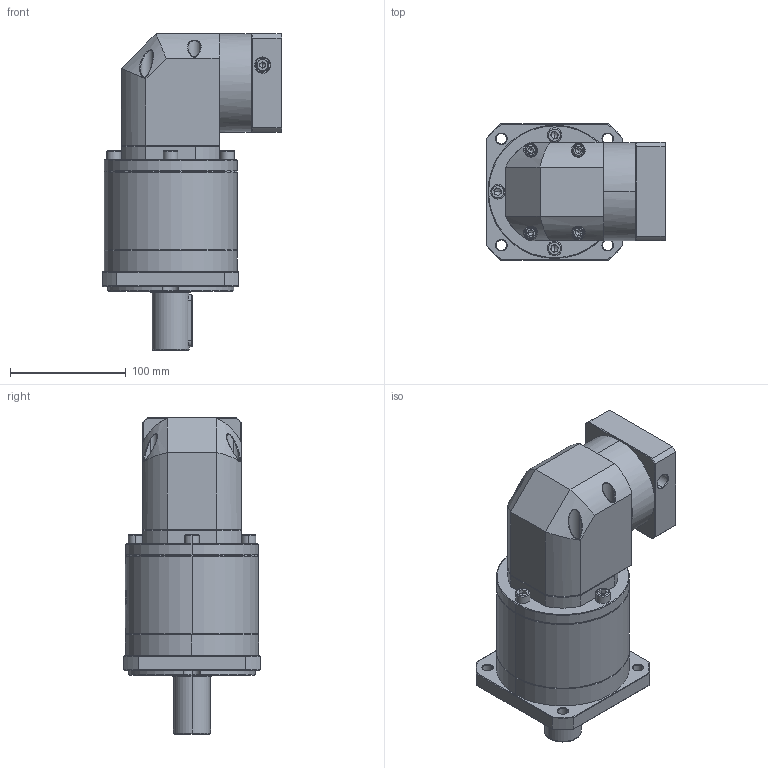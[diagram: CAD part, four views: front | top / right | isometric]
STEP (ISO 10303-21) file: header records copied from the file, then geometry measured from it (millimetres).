
FILE_DESCRIPTION (( 'STEP AP214' ), '1' );
FILE_NAME ('ZFR120A-D32-L3-P2-19-80-100-M6.step', '2023-08-27T09:19:59', ( '' ), ( '' ), 'SwSTEP 2.0', 'SolidWorks 2016', '' );
FILE_SCHEMA (( 'AUTOMOTIVE_DESIGN' ));
Length unit declared in the file: millimetre
Products named in the file (1): ZFR120A-D32-L3-P2-19-80-100-M6
Bounding box: 155.1 x 118 x 273.5 mm (x, y, z)
Volume: 2169008.7 mm3; surface area: 183143.9 mm2
Topology: 6 solids, 6 shells, 2399 faces, 6280 edges, 3989 vertices
Faces by surface type: plane 1153, cylinder 455, bspline 443, cone 334, torus 14
Entity records: 130332 total; most frequent: CARTESIAN_POINT 50621, ORIENTED_EDGE 12468, DIRECTION 9208, EDGE_CURVE 6234, VERTEX_POINT 3989, LINE 3334, VECTOR 3334, AXIS2_PLACEMENT_3D 2937
